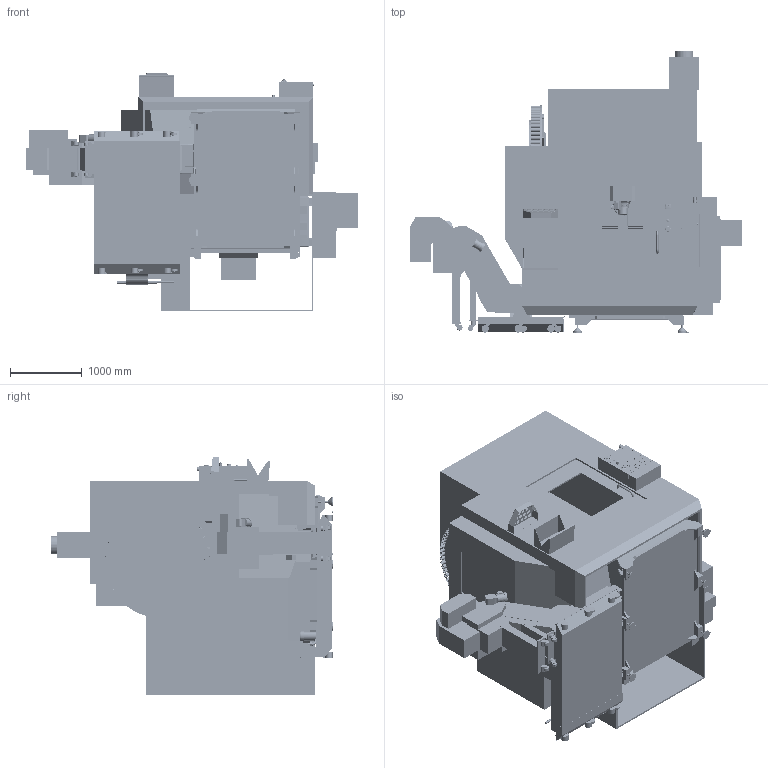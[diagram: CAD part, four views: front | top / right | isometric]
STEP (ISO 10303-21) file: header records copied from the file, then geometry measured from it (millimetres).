
FILE_DESCRIPTION (( 'STEP AP203' ), '1' );
FILE_NAME ('UMC-1000_4_2025.STEP', '2025-04-08T21:20:07', ( '' ), ( '' ), 'SwSTEP 2.0', 'SolidWorks 2023', '' );
FILE_SCHEMA (( 'CONFIG_CONTROL_DESIGN' ));
Length unit declared in the file: inch
Products named in the file (29): UMC-1000- Filter Conveyor; UMC-1000_4_2025; UMC-1000- Chip Conveyor; UMC-1000- Auto Window; UMC-1000- Tool Changer Arm Down; UMC-1000- 40 Taper Spindle; UMC-1000- 55 Gallon Coolant Tank; UMC-1000- Anchor Pattern; UMC-1000- X Axis; UMC-1000- Tool Changer Arm Up; UMC-1000- 70 PKT Tool Carousel; UMC-1000- 95 Gallon Coolant Tank; UMC-1000- Enclosure; UMC-1000- HSK Spindle; UMC-1000- Z Axis; UMC-1000- 7 slot T-Platter; UMC-1000- Y Axis; UMC-1000- Control Panel; UMC-1000- Tool Changer Cam Box; UMC-1000- Trunion; UMC-1000- Blank Platter; UMC-1000- WIPS Probe; UMC-1000- 30 PKT Tool Carousel; UMC-1000- Base Casting; UMC-1000- 50 PKT Tool Carousel; UMC-1000- Auto Door; UMC-1000- Leveling Pads; UMC-1000- Way Covers; UMC-1000- CDF Conveyor
Assembly tree (28 placements, depth 2):
  UMC-1000_4_2025
    UMC-1000- Base Casting
    UMC-1000- Leveling Pads
    UMC-1000- Trunion
    UMC-1000- 7 slot T-Platter
    UMC-1000- Blank Platter
    UMC-1000- X Axis
    UMC-1000- Y Axis
    UMC-1000- Z Axis
    UMC-1000- 40 Taper Spindle
    UMC-1000- HSK Spindle
    UMC-1000- 30 PKT Tool Carousel
    UMC-1000- 50 PKT Tool Carousel
    UMC-1000- 70 PKT Tool Carousel
    UMC-1000- Tool Changer Cam Box
    UMC-1000- Tool Changer Arm Down
    UMC-1000- Tool Changer Arm Up
    UMC-1000- WIPS Probe
    UMC-1000- Way Covers
    UMC-1000- Enclosure
    UMC-1000- Auto Window
    UMC-1000- Auto Door
    UMC-1000- Control Panel
    UMC-1000- Chip Conveyor
    UMC-1000- CDF Conveyor
    UMC-1000- Filter Conveyor
    UMC-1000- 55 Gallon Coolant Tank
    UMC-1000- 95 Gallon Coolant Tank
    UMC-1000- Anchor Pattern
Bounding box: 4614.18 x 3908.83 x 3320.81 mm (x, y, z)
Volume: 6646226815.7 mm3; surface area: 184067953.9 mm2
Topology: 64 solids, 81 shells, 14684 faces, 38609 edges, 24614 vertices
Faces by surface type: plane 7193, cylinder 4304, cone 1667, bspline 870, torus 490, sphere 160
Entity records: 567081 total; most frequent: CARTESIAN_POINT 206976, ORIENTED_EDGE 76770, DIRECTION 72568, EDGE_CURVE 38385, AXIS2_PLACEMENT_3D 25998, VERTEX_POINT 24598, LINE 20572, VECTOR 20572
